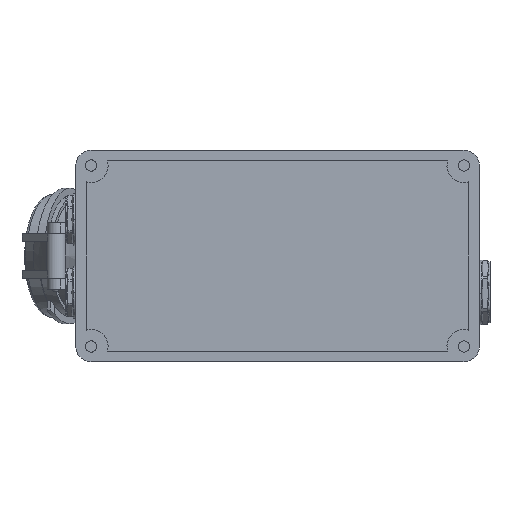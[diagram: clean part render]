
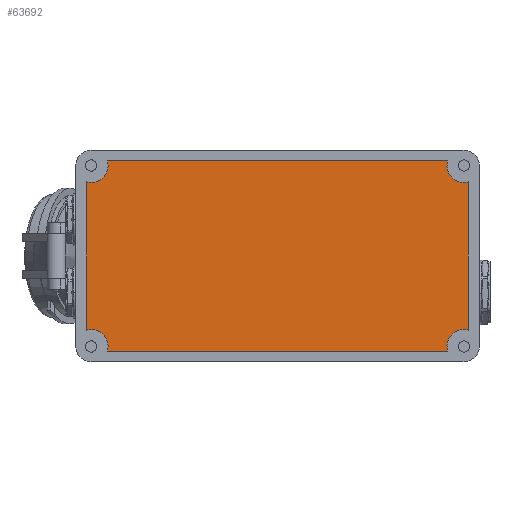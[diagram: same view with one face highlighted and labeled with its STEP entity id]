
A CAD part, front view. The second image highlights one B-rep face of the part: STEP entity #63692.
In plain terms, the highlighted planar face has unit normal (0, -1, 0).
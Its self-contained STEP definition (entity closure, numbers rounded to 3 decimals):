
#27254=CARTESIAN_POINT('',(104.,1.,-50.5));
#27255=DIRECTION('',(0.,-1.,0.));
#27256=DIRECTION('',(0.263,0.,0.965));
#27257=AXIS2_PLACEMENT_3D('',#27254,#27255,#27256);
#27262=DIRECTION('',(-1.,0.,0.));
#27263=VECTOR('',#27262,189.67);
#27264=CARTESIAN_POINT('',(94.835,1.,-53.));
#27265=LINE('1135',#27264,#27263);
#27269=CARTESIAN_POINT('',(-104.,1.,-50.5));
#27270=DIRECTION('',(0.,-1.,0.));
#27271=DIRECTION('',(0.965,0.,-0.263));
#27272=AXIS2_PLACEMENT_3D('',#27269,#27270,#27271);
#27277=DIRECTION('',(0.,0.,1.));
#27278=VECTOR('',#27277,82.67);
#27279=CARTESIAN_POINT('',(-106.5,1.,-41.335));
#27280=LINE('1137',#27279,#27278);
#27284=CARTESIAN_POINT('',(-104.,1.,50.5));
#27285=DIRECTION('',(0.,-1.,0.));
#27286=DIRECTION('',(-0.263,0.,-0.965));
#27287=AXIS2_PLACEMENT_3D('',#27284,#27285,#27286);
#27292=DIRECTION('',(1.,0.,0.));
#27293=VECTOR('',#27292,189.67);
#27294=CARTESIAN_POINT('',(-94.835,1.,53.));
#27295=LINE('1139',#27294,#27293);
#27299=CARTESIAN_POINT('',(104.,1.,50.5));
#27300=DIRECTION('',(0.,-1.,0.));
#27301=DIRECTION('',(-0.965,0.,0.263));
#27302=AXIS2_PLACEMENT_3D('',#27299,#27300,#27301);
#27307=DIRECTION('',(0.,0.,-1.));
#27308=VECTOR('',#27307,82.67);
#27309=CARTESIAN_POINT('',(106.5,1.,41.335));
#27310=LINE('1141',#27309,#27308);
#27450=CARTESIAN_POINT('',(106.5,1.,-41.335));
#27451=CARTESIAN_POINT('',(94.835,1.,-53.));
#27452=VERTEX_POINT('',#27450);
#27453=VERTEX_POINT('',#27451);
#27454=CARTESIAN_POINT('',(-94.835,1.,-53.));
#27455=VERTEX_POINT('',#27454);
#27456=CARTESIAN_POINT('',(-106.5,1.,-41.335));
#27457=VERTEX_POINT('',#27456);
#27458=CARTESIAN_POINT('',(-106.5,1.,41.335));
#27459=VERTEX_POINT('',#27458);
#27460=CARTESIAN_POINT('',(-94.835,1.,53.));
#27461=VERTEX_POINT('',#27460);
#27462=CARTESIAN_POINT('',(94.835,1.,53.));
#27463=VERTEX_POINT('',#27462);
#27464=CARTESIAN_POINT('',(106.5,1.,41.335));
#27465=VERTEX_POINT('',#27464);
#63677=CARTESIAN_POINT('',(0.,1.,0.));
#63678=DIRECTION('',(0.,1.,0.));
#63679=DIRECTION('',(0.,0.,1.));
#63680=AXIS2_PLACEMENT_3D('',#63677,#63678,#63679);
#63681=PLANE('38',#63680);
#63682=ORIENTED_EDGE('1134',*,*,#63477,.T.);
#63683=ORIENTED_EDGE('1135',*,*,#63504,.T.);
#63684=ORIENTED_EDGE('1136',*,*,#63530,.T.);
#63685=ORIENTED_EDGE('1137',*,*,#63556,.T.);
#63686=ORIENTED_EDGE('1138',*,*,#63582,.T.);
#63687=ORIENTED_EDGE('1139',*,*,#63608,.T.);
#63688=ORIENTED_EDGE('1140',*,*,#63634,.T.);
#63689=ORIENTED_EDGE('1141',*,*,#63659,.T.);
#63690=EDGE_LOOP('38',(#63682,#63683,#63684,#63685,#63686,#63687,#63688,
#63689));
#63691=FACE_OUTER_BOUND('38',#63690,.F.);
#27258=CIRCLE('1134',#27257,9.5);
#27273=CIRCLE('1136',#27272,9.5);
#27288=CIRCLE('1138',#27287,9.5);
#27303=CIRCLE('1140',#27302,9.5);
#63477=EDGE_CURVE('1134',#27452,#27453,#27258,.T.);
#63504=EDGE_CURVE('1135',#27453,#27455,#27265,.T.);
#63530=EDGE_CURVE('1136',#27455,#27457,#27273,.T.);
#63556=EDGE_CURVE('1137',#27457,#27459,#27280,.T.);
#63582=EDGE_CURVE('1138',#27459,#27461,#27288,.T.);
#63608=EDGE_CURVE('1139',#27461,#27463,#27295,.T.);
#63634=EDGE_CURVE('1140',#27463,#27465,#27303,.T.);
#63659=EDGE_CURVE('1141',#27465,#27452,#27310,.T.);
#63692=ADVANCED_FACE('38',(#63691),#63681,.F.);
